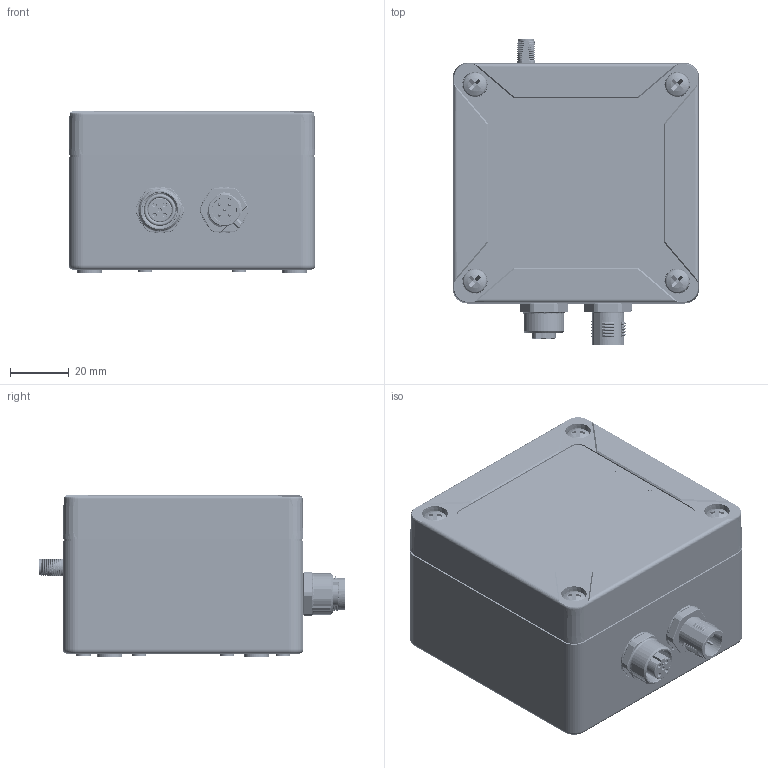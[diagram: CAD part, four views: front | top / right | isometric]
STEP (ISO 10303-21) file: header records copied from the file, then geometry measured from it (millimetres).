
FILE_DESCRIPTION (( 'STEP AP203' ), '1' );
FILE_NAME ('EREB_2020_07_24_CL2.STEP', '2020-07-24T06:32:32', ( '' ), ( '' ), 'SwSTEP 2.0', 'SolidWorks 2020', '' );
FILE_SCHEMA (( 'CONFIG_CONTROL_DESIGN' ));
Length unit declared in the file: millimetre
Products named in the file (7): 20100301_ohne_Deckel_mit_Löchern_1_SMA; E001-3141-02_R3_Ethernet_Board_v12.step; Deckel; SMA_c-2032440-1-a-3d; LED_Marker; E001-3140-02_R3_Control_Board_V22.step; EREB_2020_07_24_CL2
Assembly tree (9 placements, depth 2):
  EREB_2020_07_24_CL2
    20100301_ohne_Deckel_mit_Löchern_1_SMA
    Deckel
    E001-3140-02_R3_Control_Board_V22.step
    E001-3141-02_R3_Ethernet_Board_v12.step
    SMA_c-2032440-1-a-3d
    LED_Marker  x4
Bounding box: 84 x 104.61 x 55 mm (x, y, z)
Volume: 101614.5 mm3; surface area: 111006.9 mm2
Topology: 12 solids, 392 shells, 13592 faces, 36045 edges, 23390 vertices
Faces by surface type: plane 9759, cylinder 2256, bspline 871, cone 264, torus 244, sphere 198
Entity records: 476745 total; most frequent: CARTESIAN_POINT 156550, ORIENTED_EDGE 71414, DIRECTION 57220, EDGE_CURVE 35757, VERTEX_POINT 23230, VECTOR 23148, LINE 23148, AXIS2_PLACEMENT_3D 17036
